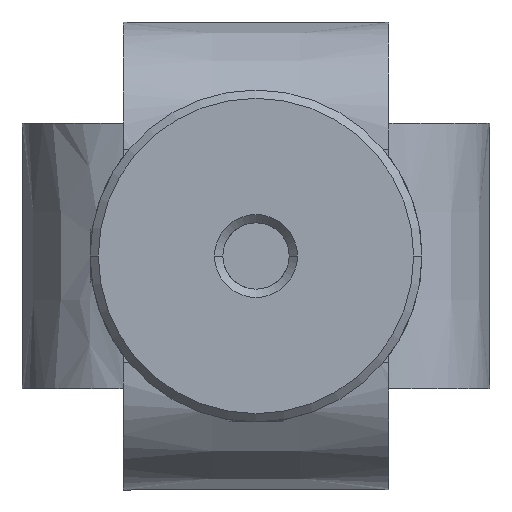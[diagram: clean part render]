
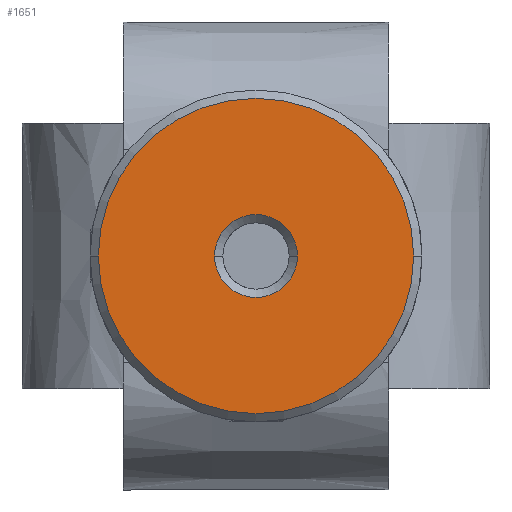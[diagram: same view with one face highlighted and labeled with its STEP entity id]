
A CAD part, front view. The second image highlights one B-rep face of the part: STEP entity #1651.
In plain terms, the highlighted planar face has unit normal (0, -1, 0).
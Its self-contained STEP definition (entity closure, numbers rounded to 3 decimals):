
#177 = DIRECTION ( 'NONE',  ( 0., 1., 0. ) ) ;
#530 = DIRECTION ( 'NONE',  ( 0., -1., 0. ) ) ;
#552 = CARTESIAN_POINT ( 'NONE',  ( 0., -35.24, 0. ) ) ;
#1368 = DIRECTION ( 'NONE',  ( -1., 0., 0. ) ) ;
#1583 = CARTESIAN_POINT ( 'NONE',  ( 0., -35.24, 0. ) ) ;
#1598 = ORIENTED_EDGE ( 'NONE', *, *, #4570, .T. ) ;
#1651 = ADVANCED_FACE ( 'NONE', ( #4320, #3488 ), #1680, .T. ) ;
#1662 = DIRECTION ( 'NONE',  ( -1., 0., 0. ) ) ;
#1673 = AXIS2_PLACEMENT_3D ( 'NONE', #1705, #530, #2303 ) ;
#1680 = PLANE ( 'NONE',  #1673 ) ;
#1705 = CARTESIAN_POINT ( 'NONE',  ( 0., -35.24, 0. ) ) ;
#1946 = VERTEX_POINT ( 'NONE', #5783 ) ;
#2124 = CIRCLE ( 'NONE', #6446, 9.5 ) ;
#2179 = DIRECTION ( 'NONE',  ( 0., -1., 0. ) ) ;
#2303 = DIRECTION ( 'NONE',  ( -1., 0., 0. ) ) ;
#2658 = ORIENTED_EDGE ( 'NONE', *, *, #3222, .T. ) ;
#3006 = DIRECTION ( 'NONE',  ( 0., 1., 0. ) ) ;
#3222 = EDGE_CURVE ( 'NONE', #3428, #1946, #6367, .T. ) ;
#3310 = CARTESIAN_POINT ( 'NONE',  ( -2.5, -35.24, 0. ) ) ;
#3387 = EDGE_CURVE ( 'NONE', #5634, #6715, #7587, .T. ) ;
#3428 = VERTEX_POINT ( 'NONE', #6123 ) ;
#3488 = FACE_OUTER_BOUND ( 'NONE', #3831, .T. ) ;
#3643 = AXIS2_PLACEMENT_3D ( 'NONE', #6471, #4126, #5899 ) ;
#3831 = EDGE_LOOP ( 'NONE', ( #2658, #1598 ) ) ;
#3871 = ORIENTED_EDGE ( 'NONE', *, *, #6453, .T. ) ;
#4126 = DIRECTION ( 'NONE',  ( 0., -1., 0. ) ) ;
#4225 = DIRECTION ( 'NONE',  ( -1., 0., 0. ) ) ;
#4320 = FACE_BOUND ( 'NONE', #7708, .T. ) ;
#4570 = EDGE_CURVE ( 'NONE', #1946, #3428, #2124, .T. ) ;
#4944 = CARTESIAN_POINT ( 'NONE',  ( 0., -35.24, 0. ) ) ;
#5220 = AXIS2_PLACEMENT_3D ( 'NONE', #4944, #177, #1368 ) ;
#5634 = VERTEX_POINT ( 'NONE', #3310 ) ;
#5783 = CARTESIAN_POINT ( 'NONE',  ( -9.5, -35.24, 0. ) ) ;
#5898 = ORIENTED_EDGE ( 'NONE', *, *, #3387, .T. ) ;
#5899 = DIRECTION ( 'NONE',  ( -1., 0., 0. ) ) ;
#6123 = CARTESIAN_POINT ( 'NONE',  ( 9.5, -35.24, 0. ) ) ;
#6367 = CIRCLE ( 'NONE', #3643, 9.5 ) ;
#6446 = AXIS2_PLACEMENT_3D ( 'NONE', #1583, #2179, #1662 ) ;
#6453 = EDGE_CURVE ( 'NONE', #6715, #5634, #6871, .T. ) ;
#6471 = CARTESIAN_POINT ( 'NONE',  ( 0., -35.24, 0. ) ) ;
#6715 = VERTEX_POINT ( 'NONE', #7254 ) ;
#6871 = CIRCLE ( 'NONE', #5220, 2.5 ) ;
#7254 = CARTESIAN_POINT ( 'NONE',  ( 2.5, -35.24, 0. ) ) ;
#7298 = AXIS2_PLACEMENT_3D ( 'NONE', #552, #3006, #4225 ) ;
#7587 = CIRCLE ( 'NONE', #7298, 2.5 ) ;
#7708 = EDGE_LOOP ( 'NONE', ( #5898, #3871 ) ) ;
